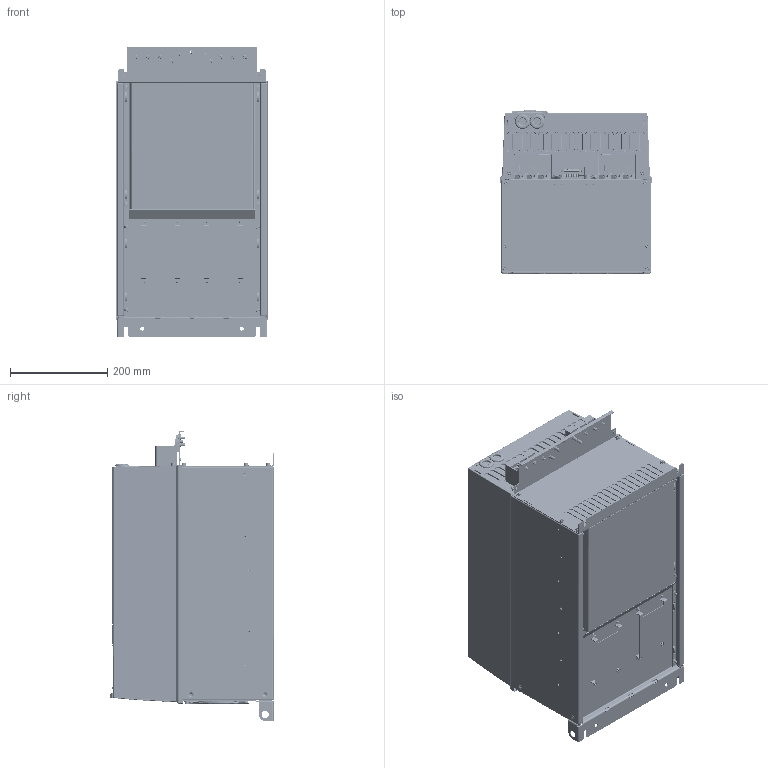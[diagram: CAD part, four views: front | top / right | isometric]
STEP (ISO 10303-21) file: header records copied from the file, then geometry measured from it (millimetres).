
FILE_DESCRIPTION (( 'STEP AP203' ), '1' );
FILE_NAME ('庉俵.7-ip20_0.STEP', '2016-01-18T14:06:44', ( '' ), ( '' ), 'SwSTEP 2.0', 'SolidWorks 2015', '' );
FILE_SCHEMA (( 'CONFIG_CONTROL_DESIGN' ));
Length unit declared in the file: millimetre
Products named in the file (1): 庉俵.7-ip20_0
Bounding box: 313 x 335.09 x 594.75 mm (x, y, z)
Surface area: 1202404.4 mm2 (no closed solid volume)
Topology: 0 solids, 43 shells, 6963 faces, 19239 edges, 12617 vertices
Faces by surface type: plane 3609, cylinder 1824, bspline 1175, cone 338, torus 17
Entity records: 301567 total; most frequent: CARTESIAN_POINT 141840, ORIENTED_EDGE 38234, DIRECTION 25167, EDGE_CURVE 19129, VERTEX_POINT 12618, LINE 10025, VECTOR 10025, AXIS2_PLACEMENT_3D 7571
